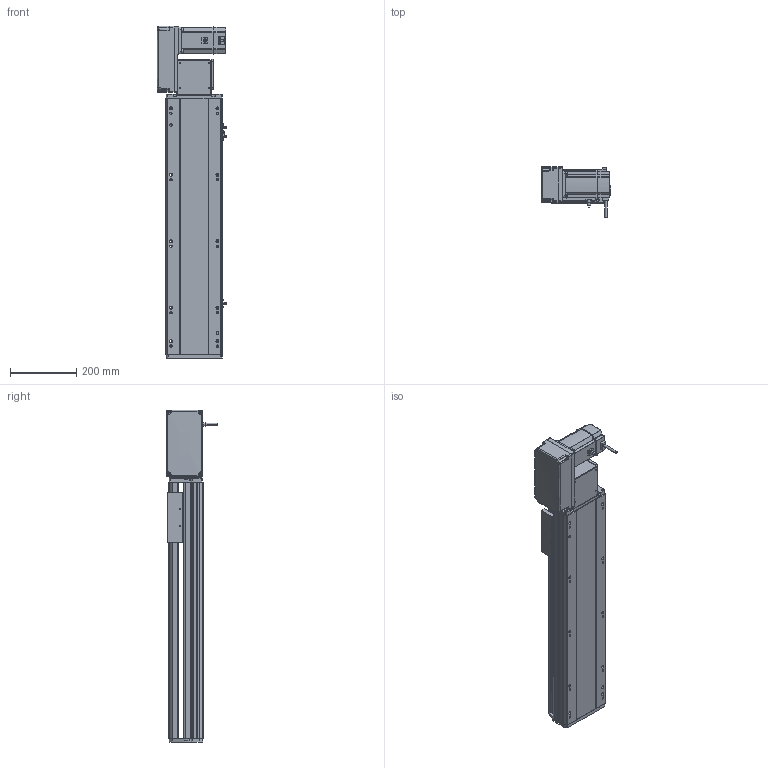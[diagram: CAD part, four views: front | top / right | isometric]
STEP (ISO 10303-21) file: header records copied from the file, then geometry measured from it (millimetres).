
FILE_DESCRIPTION (( 'STEP AP214' ), '1' );
FILE_NAME ('RTB17S-XX-500-L-M75-C4.STEP', '2025-12-12T00:09:05', ( '' ), ( '' ), 'SwSTEP 2.0', 'SolidWorks 2018', '' );
FILE_SCHEMA (( 'AUTOMOTIVE_DESIGN' ));
Length unit declared in the file: millimetre
Products named in the file (15): RTB17S-賑釱^RTB17S-XX-XX-L-M75-C4; RTB22S-GY-008-M75--萇儂啣^RTB17S-L-々湍釱蚾饜-750W_RTB17S-XX-XX-L-M75-C4; RTB17-R-011菁釱^RTB17S-XX-XX-L-M75-C4; RTB17S-XX-500-L-M75-C4; RTB17S-L-007奻裔^RTB17S-XX-XX-L-M75-C4; RMP17S-L-014-T20-P75--々湍釱^RTB17S-L-々湍釱蚾饜-750W_RTB17S-XX-XX-L-M75-C4; RTH13-BL-012覜茼え俋离^RTB17S-賑釱_RTB17S-XX-XX-L-M75-C4; 750W萇儂^RTB17S-XX-XX-L-M75-C4; RTB17S-L-001-耜醱啣^RTB17S-XX-XX-L-M75-C4; RTB17S-L-々湍釱蚾饜-750W^RTB17S-XX-XX-L-M75-C4; RTB22S-GY-018P^RTB17S-L-々湍釱蚾饜-750W_RTB17S-XX-XX-L-M75-C4; RTB22S-GY-017P^RTB17S-L-々湍釱蚾饜-750W_RTB17S-XX-XX-L-M75-C4; RTB22S-GY-005P^RTB17S-L-々湍釱蚾饜-750W_RTB17S-XX-XX-L-M75-C4; RTB17S-L-004-賑釱^RTB17S-賑釱_RTB17S-XX-XX-L-M75-C4; EE672^RTB17S-XX-XX-L-M75-C4
Assembly tree (17 placements, depth 3):
  RTB17S-XX-500-L-M75-C4
    RTB17-R-011菁釱^RTB17S-XX-XX-L-M75-C4
    EE672^RTB17S-XX-XX-L-M75-C4  x3
    RTB17S-L-001-耜醱啣^RTB17S-XX-XX-L-M75-C4
    RTB17S-賑釱^RTB17S-XX-XX-L-M75-C4
      RTB17S-L-004-賑釱^RTB17S-賑釱_RTB17S-XX-XX-L-M75-C4
      RTH13-BL-012覜茼え俋离^RTB17S-賑釱_RTB17S-XX-XX-L-M75-C4
    RTB17S-L-007奻裔^RTB17S-XX-XX-L-M75-C4
    750W萇儂^RTB17S-XX-XX-L-M75-C4
    RTB17S-L-々湍釱蚾饜-750W^RTB17S-XX-XX-L-M75-C4
      RMP17S-L-014-T20-P75--々湍釱^RTB17S-L-々湍釱蚾饜-750W_RTB17S-XX-XX-L-M75-C4
      RTB22S-GY-005P^RTB17S-L-々湍釱蚾饜-750W_RTB17S-XX-XX-L-M75-C4
      RTB22S-GY-017P^RTB17S-L-々湍釱蚾饜-750W_RTB17S-XX-XX-L-M75-C4  x2
      RTB22S-GY-008-M75--萇儂啣^RTB17S-L-々湍釱蚾饜-750W_RTB17S-XX-XX-L-M75-C4
      RTB22S-GY-018P^RTB17S-L-々湍釱蚾饜-750W_RTB17S-XX-XX-L-M75-C4
Bounding box: 210.4 x 152.7 x 999 mm (x, y, z)
Volume: 9072938.5 mm3; surface area: 1457653.8 mm2
Topology: 17 solids, 17 shells, 2057 faces, 5674 edges, 3662 vertices
Faces by surface type: plane 966, cylinder 675, bspline 294, cone 110, sphere 8, torus 4
Entity records: 56566 total; most frequent: CARTESIAN_POINT 16538, ORIENTED_EDGE 8192, DIRECTION 7682, EDGE_CURVE 4096, AXIS2_PLACEMENT_3D 2682, VERTEX_POINT 2666, VECTOR 2318, LINE 2318
